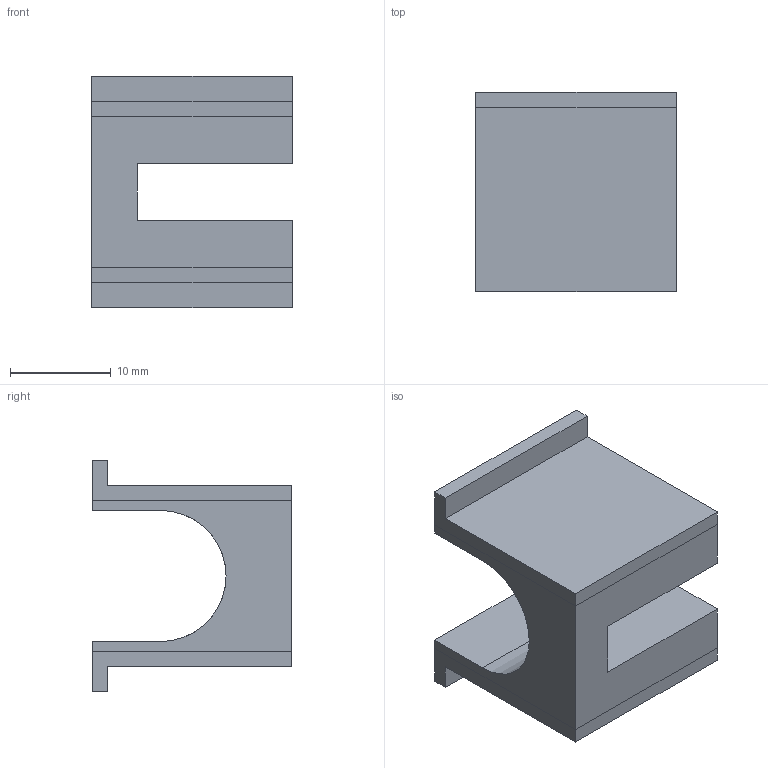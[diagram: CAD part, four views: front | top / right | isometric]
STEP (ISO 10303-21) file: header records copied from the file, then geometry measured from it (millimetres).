
FILE_DESCRIPTION(/* description */ (''),/* implementation_level */ '2;1');
FILE_NAME(/* name */ '/Users/evan/Desktop/SD9AngleV2.step',/* time_stamp */ '2019-09-10T12:00:04-07:00',/* author */ (''),/* organization */ (''),/* preprocessor_version */ 'ST-DEVELOPER v18',/* originating_system */ 'Autodesk Translation Framework v8.6.0.1094',/* authorisation */ '');
FILE_SCHEMA (('AUTOMOTIVE_DESIGN { 1 0 10303 214 3 1 1 }'));
Length unit declared in the file: millimetre
Products named in the file (2): SD9 Angle; Rail
Assembly tree (1 placements, depth 2):
  SD9 Angle
    Rail
Bounding box: 19.88 x 19.75 x 23 mm (x, y, z)
Volume: 3460.1 mm3; surface area: 4282.1 mm2
Topology: 3 solids, 3 shells, 31 faces, 75 edges, 50 vertices
Faces by surface type: plane 29, cylinder 2
Full cylindrical faces by diameter (mm): 3.175 x1
Entity records: 959 total; most frequent: CARTESIAN_POINT 159, ORIENTED_EDGE 150, DIRECTION 149, EDGE_CURVE 75, LINE 69, VECTOR 69, VERTEX_POINT 50, AXIS2_PLACEMENT_3D 40
